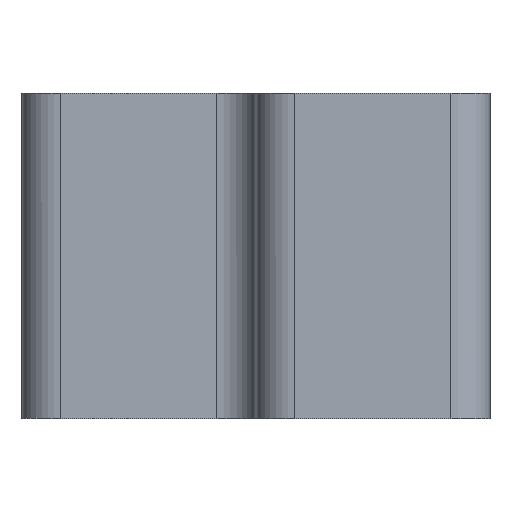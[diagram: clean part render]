
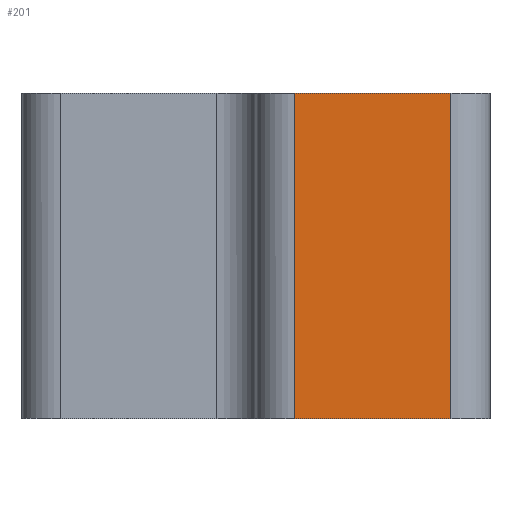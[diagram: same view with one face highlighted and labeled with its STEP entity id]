
A CAD part, front view. The second image highlights one B-rep face of the part: STEP entity #201.
In plain terms, the highlighted planar face has unit normal (0, -1, 0).
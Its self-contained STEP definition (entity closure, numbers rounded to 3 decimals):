
#155=FACE_OUTER_BOUND('',#567,.T.);
#201=ADVANCED_FACE('',(#155),#274,.T.);
#274=PLANE('',#1363);
#308=LINE('',#1889,#373);
#311=LINE('',#1986,#376);
#312=LINE('',#1988,#377);
#313=LINE('',#1990,#378);
#373=VECTOR('',#1470,1.);
#376=VECTOR('',#1489,1.);
#377=VECTOR('',#1490,1.);
#378=VECTOR('',#1491,1.);
#567=EDGE_LOOP('',(#714,#715,#716,#717));
#714=ORIENTED_EDGE('',*,*,#1140,.T.);
#715=ORIENTED_EDGE('',*,*,#1163,.T.);
#716=ORIENTED_EDGE('',*,*,#1164,.T.);
#717=ORIENTED_EDGE('',*,*,#1165,.T.);
#1019=VERTEX_POINT('',#1888);
#1020=VERTEX_POINT('',#1890);
#1042=VERTEX_POINT('',#1987);
#1043=VERTEX_POINT('',#1989);
#1140=EDGE_CURVE('',#1020,#1019,#308,.T.);
#1163=EDGE_CURVE('',#1019,#1042,#311,.T.);
#1164=EDGE_CURVE('',#1042,#1043,#312,.T.);
#1165=EDGE_CURVE('',#1043,#1020,#313,.T.);
#1363=AXIS2_PLACEMENT_3D('',#1991,#1492,#1493);
#1470=DIRECTION('',(-1.,0.,0.));
#1489=DIRECTION('',(0.,0.,-1.));
#1490=DIRECTION('',(1.,0.,0.));
#1491=DIRECTION('',(0.,0.,1.));
#1492=DIRECTION('',(0.,-1.,0.));
#1493=DIRECTION('',(0.,0.,-1.));
#1888=CARTESIAN_POINT('',(21.,0.,25.));
#1889=CARTESIAN_POINT('',(18.,0.,25.));
#1890=CARTESIAN_POINT('',(33.,0.,25.));
#1986=CARTESIAN_POINT('',(21.,0.,0.));
#1987=CARTESIAN_POINT('',(21.,0.,0.));
#1988=CARTESIAN_POINT('',(18.,0.,0.));
#1989=CARTESIAN_POINT('',(33.,0.,0.));
#1990=CARTESIAN_POINT('',(33.,0.,0.));
#1991=CARTESIAN_POINT('',(18.,0.,0.));
